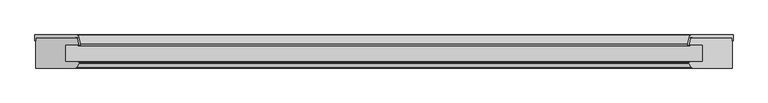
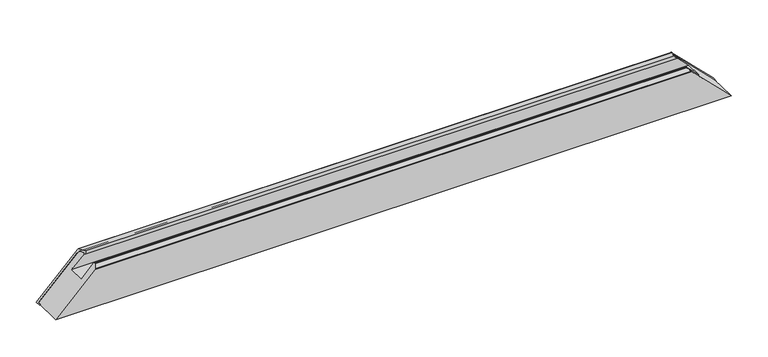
"""IFC4 building model written with IfcOpenShell, lengths in millimetres: proxy geometry, Weiku - Montante - Caixilho fixo : Weiku - Montante - Caixilho fixo."""

from ifc_helpers import new_model, si_unit, frame, origin, place, context, project, spatial, polyline, ellipse_curve, source, transform, mapped, element, save
from ifc_brep_helpers import plane_surface, cylinder_surface, revolved_surface, advanced_brep


def generic_models_badb5d8a(model_context):
    return source(origin(), model_context, "Body", "AdvancedBrep", [
        advanced_brep(
        [(537.6, 41.9137905, -1.0), (537.6, 51.0, -1.0), (472.1643998, 51.0, 64.4356002), (471.198474, 50.258819, 65.401526), (467.7863753, 37.5246933, 68.8136247), (470.4909676, 34.0, 66.1090324), (470.4909676, 36.0, 66.1090324), (469.718227, 37.0070552, 66.881773), (471.8000319, 44.7764571, 64.7999681), (474.6978094, 47.0, 61.9021906), (536.6, 47.0, 0.0), (536.6, 41.9137905, 0.0), (-537.6, 51.0, -1.0), (-537.6, 41.9137905, -1.0), (-536.6, 41.9137905, 0.0), (-536.6, 47.0, 0.0), (-474.6978094, 47.0, 61.9021906), (-471.8000319, 44.7764571, 64.7999681), (-469.718227, 37.0070552, 66.881773), (-470.4909676, 36.0, 66.1090324), (-470.4909676, 34.0, 66.1090324), (-467.7863753, 37.5246933, 68.8136247), (-471.198474, 50.258819, 65.401526), (-472.1643998, 51.0, 64.4356002)],
        [
            (0, 1),
            (1, 2),
            (2, 3, ellipse_curve(frame((472.1643998, 50.0, 64.4356002), z_axis=(0.707106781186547, 0.0, 0.707106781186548), x_axis=(-0.7071067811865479, 0.0, 0.707106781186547)), 1.4142136, 1.0)),
            (3, 4),
            (4, 5, ellipse_curve(frame((470.4909676, 36.8, 66.1090324), z_axis=(0.707106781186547, 0.0, 0.707106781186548), x_axis=(-0.7071067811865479, 0.0, 0.707106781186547)), 3.959798, 2.8)),
            (5, 6),
            (6, 7, ellipse_curve(frame((470.4909676, 36.8, 66.1090324), z_axis=(-0.707106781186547, 0.0, -0.707106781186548), x_axis=(0.7071067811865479, 0.0, -0.707106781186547)), 1.1313708, 0.8)),
            (7, 8),
            (8, 9, ellipse_curve(frame((474.6978094, 44.0, 61.9021906), z_axis=(-0.707106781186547, 0.0, -0.707106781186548), x_axis=(0.7071067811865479, 0.0, -0.707106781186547)), 4.2426407, 3.0)),
            (9, 10),
            (10, 11),
            (11, 0),
            (12, 13),
            (13, 14),
            (14, 15),
            (15, 16),
            (16, 17, ellipse_curve(frame((-474.6978094, 44.0, 61.9021906), z_axis=(0.707106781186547, 0.0, -0.7071067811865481), x_axis=(0.7071067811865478, 0.0, 0.707106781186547)), 4.2426407, 3.0)),
            (17, 18),
            (18, 19, ellipse_curve(frame((-470.4909676, 36.8, 66.1090324), z_axis=(0.707106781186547, 0.0, -0.7071067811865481), x_axis=(0.7071067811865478, 0.0, 0.707106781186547)), 1.1313708, 0.8)),
            (19, 20),
            (20, 21, ellipse_curve(frame((-470.4909676, 36.8, 66.1090324), z_axis=(-0.707106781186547, 0.0, 0.7071067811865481), x_axis=(-0.7071067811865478, 0.0, -0.707106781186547)), 3.959798, 2.8)),
            (21, 22),
            (22, 23, ellipse_curve(frame((-472.1643998, 50.0, 64.4356002), z_axis=(-0.707106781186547, 0.0, 0.7071067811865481), x_axis=(-0.7071067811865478, 0.0, -0.707106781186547)), 1.4142136, 1.0)),
            (23, 12),
            (0, 13),
            (12, 1),
            (11, 14),
            (5, 20),
            (19, 6),
            (3, 22),
            (21, 4),
            (2, 23),
            (10, 15),
            (9, 16),
            (8, 17),
            (7, 18),
        ],
        [
            plane_surface(frame((466.6, -15.0, 70.0), z_axis=(0.707106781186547, 0.0, 0.707106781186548), x_axis=(0.0, 1.0, 0.0))),
            plane_surface(frame((-606.6, -15.0, -70.0), z_axis=(-0.707106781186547, 0.0, 0.7071067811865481), x_axis=(0.0, 1.0, 0.0))),
            plane_surface(frame((-539.4284271, 51.0, -1.0), z_axis=(0.0, 0.0, -1.0), x_axis=(1.0, 0.0, 0.0))),
            plane_surface(frame((-539.4284271, 41.9137905, -1.0), z_axis=(0.0, -1.0, 0.0), x_axis=(1.0, 0.0, 0.0))),
            plane_surface(frame((-539.4284271, 36.0, 66.1090324), z_axis=(0.0, 0.0, -1.0), x_axis=(1.0, 0.0, 0.0))),
            plane_surface(frame((-539.4284271, 37.5246933, 68.8136247), z_axis=(0.0, 0.25881904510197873, 0.9659258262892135), x_axis=(1.0, 0.0, 0.0))),
            cylinder_surface(frame((-539.4284271, 50.0, 64.4356002), z_axis=(-1.0, 0.0, 0.0), x_axis=(0.0, -1.0, 0.0)), 1.0),
            plane_surface(frame((-539.4284271, 51.0, 64.4356002), z_axis=(0.0, 1.0, 0.0), x_axis=(1.0, 0.0, 0.0))),
            plane_surface(frame((-539.4284271, 41.9137905, 0.0), z_axis=(0.0, 0.0, 1.0), x_axis=(1.0, 0.0, 0.0))),
            plane_surface(frame((-539.4284271, 47.0, 0.0), z_axis=(0.0, -1.0, 0.0), x_axis=(1.0, 0.0, 0.0))),
            revolved_surface(polyline([(477.697809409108, 47.0, 61.9021906), (-477.697809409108, 47.0, 61.9021906)]), (-539.4284271, 44.0, 61.9021906), (1.0, 0.0, 0.0)),
            plane_surface(frame((-539.4284271, 44.7764571, 64.7999681), z_axis=(0.0, -0.2588190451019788, -0.9659258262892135), x_axis=(1.0, 0.0, 0.0))),
            revolved_surface(polyline([(471.2909675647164, 37.599999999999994, 66.1090324), (-471.2909675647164, 37.599999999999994, 66.1090324)]), (-539.4284271, 36.8, 66.1090324), (1.0, 0.0, 0.0)),
            cylinder_surface(frame((-539.4284271, 36.8, 66.1090324), z_axis=(-1.0, 0.0, 0.0), x_axis=(0.0, 1.0, 0.0)), 2.8),
        ],
        [
            (0, [[1, 2, 3, 4, 5, 6, 7, 8, 9, 10, 11, 12]]),
            (1, [[13, 14, 15, 16, 17, 18, 19, 20, 21, 22, 23, 24]]),
            (2, [[-1, 25, -13, 26]]),
            (3, [[-12, 27, -14, -25]]),
            (4, [[-6, 28, -20, 29]]),
            (5, [[-4, 30, -22, 31]]),
            (6, [[-3, 32, -23, -30]]),
            (7, [[-2, -26, -24, -32]]),
            (8, [[-11, 33, -15, -27]]),
            (9, [[-10, 34, -16, -33]]),
            (10, [[-9, 35, -17, -34]]),
            (11, [[-8, 36, -18, -35]]),
            (12, [[-7, -29, -19, -36]]),
            (13, [[-5, -31, -21, -28]]),
        ],
    ),
        advanced_brep(
        [(-469.718227, 37.0070552, 66.881773), (-471.8000319, 44.7764571, 64.7999681), (-474.6978094, 47.0, 61.9021906), (-536.6, 47.0, 0.0), (-536.6, 0.0, 0.0), (-474.1773503, 0.0, 62.4226497), (-473.3113249, 0.5, 63.2886751), (-469.8679492, 6.4641016, 66.7320508), (-469.6, 7.4641016, 67.0), (-469.6, 8.8, 67.0), (-470.3, 9.5, 66.3), (-490.6, 9.5, 46.0), (-490.6, 36.0, 46.0), (-470.4909676, 36.0, 66.1090324), (471.8000319, 44.7764571, 64.7999681), (469.718227, 37.0070552, 66.881773), (470.4909676, 36.0, 66.1090324), (490.6, 36.0, 46.0), (490.6, 9.5, 46.0), (470.3, 9.5, 66.3), (469.6, 8.8, 67.0), (469.6, 7.4641016, 67.0), (469.8679492, 6.4641016, 66.7320508), (473.3113249, 0.5, 63.2886751), (474.1773503, 0.0, 62.4226497), (536.6, 0.0, 0.0), (536.6, 47.0, 0.0), (474.6978094, 47.0, 61.9021906)],
        [
            (0, 1),
            (1, 2, ellipse_curve(frame((-474.6978094, 44.0, 61.9021906), z_axis=(-0.707106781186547, 0.0, 0.7071067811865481), x_axis=(-0.7071067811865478, 0.0, -0.707106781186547)), 4.2426407, 3.0)),
            (2, 3),
            (3, 4),
            (4, 5),
            (5, 6, ellipse_curve(frame((-474.1773503, 1.0, 62.4226497), z_axis=(-0.707106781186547, 0.0, 0.7071067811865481), x_axis=(-0.7071067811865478, 0.0, -0.707106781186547)), 1.4142136, 1.0)),
            (6, 7),
            (7, 8, ellipse_curve(frame((-471.6, 7.4641016, 65.0), z_axis=(-0.707106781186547, 0.0, 0.7071067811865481), x_axis=(-0.7071067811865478, 0.0, -0.707106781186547)), 2.8284271, 2.0)),
            (8, 9),
            (9, 10, ellipse_curve(frame((-470.3, 8.8, 66.3), z_axis=(-0.707106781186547, 0.0, 0.7071067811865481), x_axis=(-0.7071067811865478, 0.0, -0.707106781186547)), 0.9899495, 0.7)),
            (10, 11),
            (11, 12),
            (12, 13),
            (13, 0, ellipse_curve(frame((-470.4909676, 36.8, 66.1090324), z_axis=(-0.707106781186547, 0.0, 0.7071067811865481), x_axis=(-0.7071067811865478, 0.0, -0.707106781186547)), 1.1313708, 0.8)),
            (14, 15),
            (15, 16, ellipse_curve(frame((470.4909676, 36.8, 66.1090324), z_axis=(0.707106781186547, 0.0, 0.707106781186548), x_axis=(-0.7071067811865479, 0.0, 0.707106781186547)), 1.1313708, 0.8)),
            (16, 17),
            (17, 18),
            (18, 19),
            (19, 20, ellipse_curve(frame((470.3, 8.8, 66.3), z_axis=(0.707106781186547, 0.0, 0.707106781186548), x_axis=(-0.7071067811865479, 0.0, 0.707106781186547)), 0.9899495, 0.7)),
            (20, 21),
            (21, 22, ellipse_curve(frame((471.6, 7.4641016, 65.0), z_axis=(0.707106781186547, 0.0, 0.707106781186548), x_axis=(-0.7071067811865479, 0.0, 0.707106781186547)), 2.8284271, 2.0)),
            (22, 23),
            (23, 24, ellipse_curve(frame((474.1773503, 1.0, 62.4226497), z_axis=(0.707106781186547, 0.0, 0.707106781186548), x_axis=(-0.7071067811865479, 0.0, 0.707106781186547)), 1.4142136, 1.0)),
            (24, 25),
            (25, 26),
            (26, 27),
            (27, 14, ellipse_curve(frame((474.6978094, 44.0, 61.9021906), z_axis=(0.707106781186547, 0.0, 0.707106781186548), x_axis=(-0.7071067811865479, 0.0, 0.707106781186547)), 4.2426407, 3.0)),
            (0, 15),
            (14, 1),
            (27, 2),
            (26, 3),
            (25, 4),
            (24, 5),
            (11, 18),
            (17, 12),
            (16, 13),
            (23, 6),
            (22, 7),
            (21, 8),
            (20, 9),
            (19, 10),
        ],
        [
            plane_surface(frame((-606.6, -15.0, -70.0), z_axis=(-0.707106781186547, 0.0, 0.7071067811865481), x_axis=(0.0, 1.0, 0.0))),
            plane_surface(frame((466.6, -15.0, 70.0), z_axis=(0.707106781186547, 0.0, 0.707106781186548), x_axis=(0.0, 1.0, 0.0))),
            plane_surface(frame((-536.6, 37.0070552, 66.881773), z_axis=(0.0, 0.2588190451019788, 0.9659258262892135), x_axis=(1.0, 0.0, 0.0))),
            cylinder_surface(frame((-536.6, 44.0, 61.9021906), z_axis=(-1.0, 0.0, 0.0), x_axis=(0.0, 1.0, 0.0)), 3.0),
            plane_surface(frame((-536.6, 47.0, 61.9021906), z_axis=(0.0, 1.0, 0.0), x_axis=(1.0, 0.0, 0.0))),
            plane_surface(frame((-536.6, 47.0, 0.0), z_axis=(0.0, 0.0, -1.0), x_axis=(1.0, 0.0, 0.0))),
            plane_surface(frame((-536.6, 0.0, 0.0), z_axis=(0.0, -1.0, 0.0), x_axis=(1.0, 0.0, 0.0))),
            plane_surface(frame((-536.6, 9.5, 46.0), z_axis=(0.0, 0.0, 1.0), x_axis=(1.0, 0.0, 0.0))),
            plane_surface(frame((-536.6, 36.0, 46.0), z_axis=(0.0, -1.0, 0.0), x_axis=(1.0, 0.0, 0.0))),
            cylinder_surface(frame((-536.6, 36.8, 66.1090324), z_axis=(-1.0, 0.0, 0.0), x_axis=(0.0, 1.0, 0.0)), 0.8),
            cylinder_surface(frame((-536.6, 1.0, 62.4226497), z_axis=(-1.0, 0.0, 0.0), x_axis=(0.0, 1.0, 0.0)), 1.0),
            plane_surface(frame((-536.6, 0.5, 63.2886751), z_axis=(0.0, -0.49999999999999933, 0.866025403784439), x_axis=(1.0, 0.0, 0.0))),
            cylinder_surface(frame((-536.6, 7.4641016, 65.0), z_axis=(-1.0, 0.0, 0.0), x_axis=(0.0, 1.0, 0.0)), 2.0),
            plane_surface(frame((-536.6, 7.4641016, 67.0), z_axis=(0.0, 0.0, 1.0), x_axis=(1.0, 0.0, 0.0))),
            cylinder_surface(frame((-536.6, 8.8, 66.3), z_axis=(-1.0, 0.0, 0.0), x_axis=(0.0, 1.0, 0.0)), 0.7),
            plane_surface(frame((-536.6, 9.5, 66.3), z_axis=(0.0, 1.0, 0.0), x_axis=(1.0, 0.0, 0.0))),
        ],
        [
            (0, [[1, 2, 3, 4, 5, 6, 7, 8, 9, 10, 11, 12, 13, 14]]),
            (1, [[15, 16, 17, 18, 19, 20, 21, 22, 23, 24, 25, 26, 27, 28]]),
            (2, [[-1, 29, -15, 30]]),
            (3, [[-2, -30, -28, 31]]),
            (4, [[32, -3, -31, -27]]),
            (5, [[-32, -26, 33, -4]]),
            (6, [[-33, -25, 34, -5]]),
            (7, [[-12, 35, -18, 36]]),
            (8, [[-13, -36, -17, 37]]),
            (9, [[-14, -37, -16, -29]]),
            (10, [[-6, -34, -24, 38]]),
            (11, [[-7, -38, -23, 39]]),
            (12, [[-8, -39, -22, 40]]),
            (13, [[-9, -40, -21, 41]]),
            (14, [[-10, -41, -20, 42]]),
            (15, [[-11, -42, -19, -35]]),
        ],
    ),
    ])


if __name__ == "__main__":
    model = new_model("IFC4")
    model_context = context("Model", 3, world=origin())
    ifc_project = project(units=[si_unit("LENGTHUNIT", "METRE", prefix="MILLI")], contexts=[model_context])
    site = spatial("IfcSite", under=ifc_project)
    building = spatial("IfcBuilding", under=site)
    placement = place(None, origin())
    generic_models_shape = generic_models_badb5d8a(model_context)
    element("IfcBuildingElementProxy", 1, Name="Weiku - Montante - Caixilho fixo : Weiku - Montante - Caixilho fixo", ObjectType="Weiku - Montante - Caixilho fixo : Weiku - Montante - Caixilho fixo", at=placement, inside=building, context=model_context, shape_type="MappedRepresentation", body=[
        mapped(generic_models_shape, transform((0.0, 0.0, 0.0), x_axis=(1.0, 0.0, 0.0), y_axis=(0.0, 1.0, 0.0), z_axis=(0.0, 0.0, 1.0))),
    ])
    save(model, "model.ifc")
